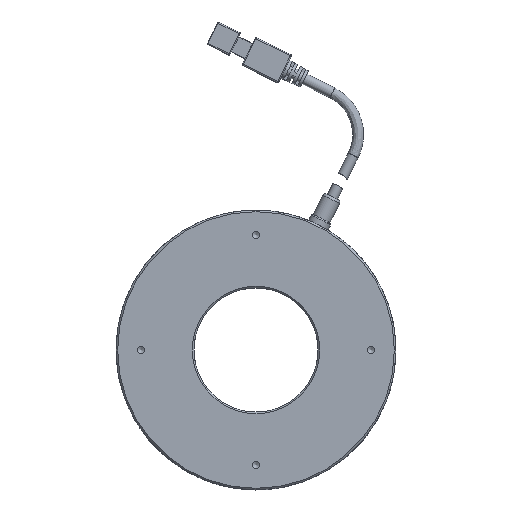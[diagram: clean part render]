
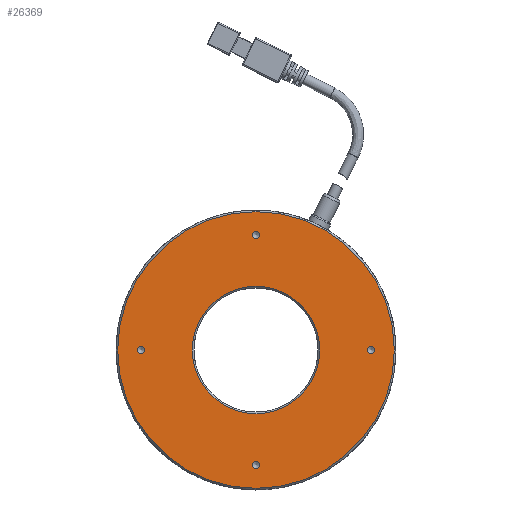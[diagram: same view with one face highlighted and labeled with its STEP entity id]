
A CAD part, top view. The second image highlights one B-rep face of the part: STEP entity #26369.
In plain terms, the highlighted planar face has unit normal (0, 0, 1).
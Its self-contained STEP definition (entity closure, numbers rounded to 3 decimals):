
#591 = DIRECTION ( 'NONE',  ( 0., 0., -1. ) ) ;
#1270 = DIRECTION ( 'NONE',  ( 0., 0., 1. ) ) ;
#1920 = ORIENTED_EDGE ( 'NONE', *, *, #25751, .T. ) ;
#1939 = DIRECTION ( 'NONE',  ( 0., 0., -1. ) ) ;
#2755 = EDGE_LOOP ( 'NONE', ( #1920 ) ) ;
#3012 = FACE_BOUND ( 'NONE', #16934, .T. ) ;
#3018 = DIRECTION ( 'NONE',  ( 0., 0., -1. ) ) ;
#3503 = CARTESIAN_POINT ( 'NONE',  ( -38.25, 6.469, 5.318 ) ) ;
#3686 = CARTESIAN_POINT ( 'NONE',  ( 20.5, 6.469, 5.318 ) ) ;
#3762 = EDGE_CURVE ( 'NONE', #16530, #16530, #20593, .T. ) ;
#4752 = DIRECTION ( 'NONE',  ( -1., 0., 0. ) ) ;
#4917 = DIRECTION ( 'NONE',  ( -1., 0., 0. ) ) ;
#5011 = CARTESIAN_POINT ( 'NONE',  ( 0., 6.469, 5.318 ) ) ;
#5134 = VERTEX_POINT ( 'NONE', #6172 ) ;
#5426 = CIRCLE ( 'NONE', #27008, 1.25 ) ;
#5471 = VERTEX_POINT ( 'NONE', #27012 ) ;
#5538 = DIRECTION ( 'NONE',  ( 0., 0., -1. ) ) ;
#5619 = CARTESIAN_POINT ( 'NONE',  ( 0., 6.469, 5.318 ) ) ;
#5807 = CARTESIAN_POINT ( 'NONE',  ( 35.75, 6.469, 5.318 ) ) ;
#6172 = CARTESIAN_POINT ( 'NONE',  ( -1.25, 43.469, 5.318 ) ) ;
#6301 = EDGE_LOOP ( 'NONE', ( #19968 ) ) ;
#7012 = FACE_BOUND ( 'NONE', #7149, .T. ) ;
#7149 = EDGE_LOOP ( 'NONE', ( #9810 ) ) ;
#7376 = EDGE_CURVE ( 'NONE', #27449, #27449, #5426, .T. ) ;
#8365 = FACE_OUTER_BOUND ( 'NONE', #6301, .T. ) ;
#8860 = VERTEX_POINT ( 'NONE', #10183 ) ;
#9065 = PLANE ( 'NONE',  #20975 ) ;
#9129 = VERTEX_POINT ( 'NONE', #3686 ) ;
#9810 = ORIENTED_EDGE ( 'NONE', *, *, #15520, .F. ) ;
#10183 = CARTESIAN_POINT ( 'NONE',  ( -44.5, 6.469, 5.318 ) ) ;
#11203 = DIRECTION ( 'NONE',  ( -1., 0., 0. ) ) ;
#11702 = CARTESIAN_POINT ( 'NONE',  ( 0., -30.531, 5.318 ) ) ;
#12652 = ORIENTED_EDGE ( 'NONE', *, *, #3762, .T. ) ;
#12824 = DIRECTION ( 'NONE',  ( -1., 0., 0. ) ) ;
#13332 = CARTESIAN_POINT ( 'NONE',  ( 37., 6.469, 5.318 ) ) ;
#13664 = DIRECTION ( 'NONE',  ( -1., 0., 0. ) ) ;
#13688 = EDGE_CURVE ( 'NONE', #8860, #8860, #24739, .T. ) ;
#14579 = AXIS2_PLACEMENT_3D ( 'NONE', #11702, #5538, #16101 ) ;
#14799 = DIRECTION ( 'NONE',  ( 1., 0., 0. ) ) ;
#15024 = AXIS2_PLACEMENT_3D ( 'NONE', #5011, #17740, #4917 ) ;
#15520 = EDGE_CURVE ( 'NONE', #9129, #9129, #18053, .T. ) ;
#16101 = DIRECTION ( 'NONE',  ( -1., 0., 0. ) ) ;
#16530 = VERTEX_POINT ( 'NONE', #3503 ) ;
#16532 = AXIS2_PLACEMENT_3D ( 'NONE', #25389, #1939, #12824 ) ;
#16934 = EDGE_LOOP ( 'NONE', ( #23258 ) ) ;
#17385 = FACE_BOUND ( 'NONE', #2755, .T. ) ;
#17434 = CIRCLE ( 'NONE', #16532, 1.25 ) ;
#17740 = DIRECTION ( 'NONE',  ( 0., 0., -1. ) ) ;
#18053 = CIRCLE ( 'NONE', #19329, 20.5 ) ;
#18801 = ORIENTED_EDGE ( 'NONE', *, *, #7376, .T. ) ;
#19329 = AXIS2_PLACEMENT_3D ( 'NONE', #5619, #1270, #14799 ) ;
#19366 = FACE_BOUND ( 'NONE', #27402, .T. ) ;
#19786 = EDGE_CURVE ( 'NONE', #5471, #5471, #23828, .T. ) ;
#19789 = CARTESIAN_POINT ( 'NONE',  ( 20., 6.469, 5.318 ) ) ;
#19968 = ORIENTED_EDGE ( 'NONE', *, *, #13688, .F. ) ;
#20593 = CIRCLE ( 'NONE', #24542, 1.25 ) ;
#20975 = AXIS2_PLACEMENT_3D ( 'NONE', #19789, #591, #11203 ) ;
#21843 = CARTESIAN_POINT ( 'NONE',  ( -37., 6.469, 5.318 ) ) ;
#22682 = FACE_BOUND ( 'NONE', #24971, .T. ) ;
#23258 = ORIENTED_EDGE ( 'NONE', *, *, #19786, .T. ) ;
#23565 = DIRECTION ( 'NONE',  ( 0., 0., -1. ) ) ;
#23828 = CIRCLE ( 'NONE', #14579, 1.25 ) ;
#24542 = AXIS2_PLACEMENT_3D ( 'NONE', #21843, #3018, #13664 ) ;
#24739 = CIRCLE ( 'NONE', #15024, 44.5 ) ;
#24971 = EDGE_LOOP ( 'NONE', ( #18801 ) ) ;
#25389 = CARTESIAN_POINT ( 'NONE',  ( 0., 43.469, 5.318 ) ) ;
#25751 = EDGE_CURVE ( 'NONE', #5134, #5134, #17434, .T. ) ;
#26369 = ADVANCED_FACE ( 'NONE', ( #7012, #8365, #22682, #3012, #19366, #17385 ), #9065, .F. ) ;
#27008 = AXIS2_PLACEMENT_3D ( 'NONE', #13332, #23565, #4752 ) ;
#27012 = CARTESIAN_POINT ( 'NONE',  ( -1.25, -30.531, 5.318 ) ) ;
#27402 = EDGE_LOOP ( 'NONE', ( #12652 ) ) ;
#27449 = VERTEX_POINT ( 'NONE', #5807 ) ;
